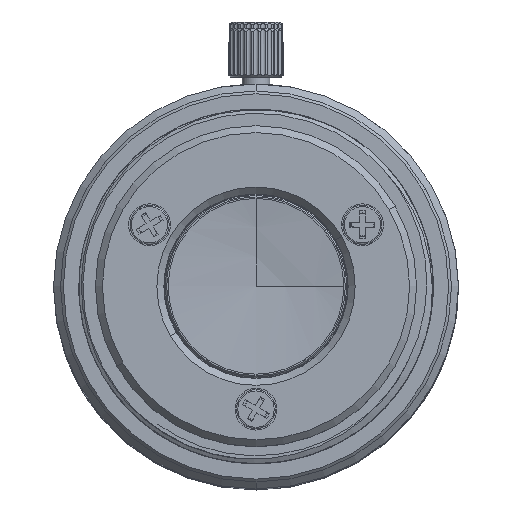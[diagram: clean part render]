
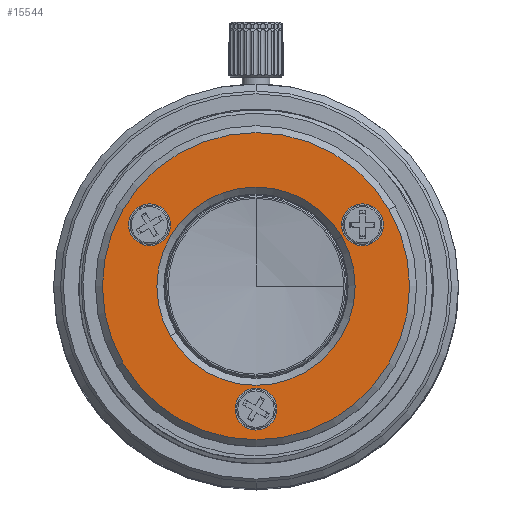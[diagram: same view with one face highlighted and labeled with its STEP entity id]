
A CAD part, top view. The second image highlights one B-rep face of the part: STEP entity #15544.
In plain terms, the highlighted planar face has unit normal (0, 0, 1).
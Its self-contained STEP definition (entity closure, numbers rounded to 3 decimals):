
#2009=CARTESIAN_POINT('',(0.,0.,28.783));
#2010=DIRECTION('',(0.,0.,1.));
#2011=DIRECTION('',(-0.866,-0.5,0.));
#2012=AXIS2_PLACEMENT_3D('',#2009,#2010,#2011);
#2023=CARTESIAN_POINT('',(0.,0.,28.783));
#2024=DIRECTION('',(0.,0.,1.));
#2025=DIRECTION('',(0.866,0.5,0.));
#2026=AXIS2_PLACEMENT_3D('',#2023,#2024,#2025);
#2033=CARTESIAN_POINT('',(0.,0.,28.783));
#2034=DIRECTION('',(0.,0.,-1.));
#2035=DIRECTION('',(0.866,0.5,0.));
#2036=AXIS2_PLACEMENT_3D('',#2033,#2034,#2035);
#2038=CARTESIAN_POINT('',(7.621,4.4,28.783));
#2039=DIRECTION('',(0.,0.,-1.));
#2040=DIRECTION('',(-0.5,0.866,0.));
#2041=AXIS2_PLACEMENT_3D('',#2038,#2039,#2040);
#2043=CARTESIAN_POINT('',(7.621,4.4,28.783));
#2044=DIRECTION('',(0.,0.,-1.));
#2045=DIRECTION('',(0.5,-0.866,0.));
#2046=AXIS2_PLACEMENT_3D('',#2043,#2044,#2045);
#2048=CARTESIAN_POINT('',(-7.621,4.4,28.783));
#2049=DIRECTION('',(0.,0.,-1.));
#2050=DIRECTION('',(-0.5,-0.866,0.));
#2051=AXIS2_PLACEMENT_3D('',#2048,#2049,#2050);
#2053=CARTESIAN_POINT('',(-7.621,4.4,28.783));
#2054=DIRECTION('',(0.,0.,-1.));
#2055=DIRECTION('',(0.5,0.866,0.));
#2056=AXIS2_PLACEMENT_3D('',#2053,#2054,#2055);
#2058=CARTESIAN_POINT('',(0.,-8.8,
28.783));
#2059=DIRECTION('',(0.,0.,-1.));
#2060=DIRECTION('',(1.,0.,0.));
#2061=AXIS2_PLACEMENT_3D('',#2058,#2059,#2060);
#2063=CARTESIAN_POINT('',(0.,-8.8,
28.783));
#2064=DIRECTION('',(0.,0.,-1.));
#2065=DIRECTION('',(-1.,0.,0.));
#2066=AXIS2_PLACEMENT_3D('',#2063,#2064,#2065);
#2068=CARTESIAN_POINT('',(0.,0.,28.783));
#2069=DIRECTION('',(0.,0.,-1.));
#2070=DIRECTION('',(-0.866,-0.5,0.));
#2071=AXIS2_PLACEMENT_3D('',#2068,#2069,#2070);
#13008=CARTESIAN_POINT('',(-6.149,-3.55,
28.783));
#13009=VERTEX_POINT('',#13008);
#13010=CARTESIAN_POINT('',(6.149,3.55,28.783));
#13011=VERTEX_POINT('',#13010);
#13012=CARTESIAN_POINT('',(6.871,5.699,28.783));
#13013=CARTESIAN_POINT('',(8.371,3.101,28.783));
#13014=VERTEX_POINT('',#13012);
#13015=VERTEX_POINT('',#13013);
#13016=CARTESIAN_POINT('',(-8.371,3.101,
28.783));
#13017=CARTESIAN_POINT('',(-6.871,5.699,
28.783));
#13018=VERTEX_POINT('',#13016);
#13019=VERTEX_POINT('',#13017);
#13020=CARTESIAN_POINT('',(1.5,-8.8,
28.783));
#13021=CARTESIAN_POINT('',(-1.5,-8.8,
28.783));
#13022=VERTEX_POINT('',#13020);
#13023=VERTEX_POINT('',#13021);
#13025=CARTESIAN_POINT('',(-9.526,-5.5,
28.783));
#13027=VERTEX_POINT('',#13025);
#13028=CARTESIAN_POINT('',(9.526,5.5,28.783));
#13030=VERTEX_POINT('',#13028);
#15511=CARTESIAN_POINT('',(0.,0.,
28.783));
#15512=DIRECTION('',(0.,0.,1.));
#15513=DIRECTION('',(-0.5,0.866,0.));
#15514=AXIS2_PLACEMENT_3D('',#15511,#15512,#15513);
#15515=PLANE('',#15514);
#15516=ORIENTED_EDGE('',*,*,#15503,.F.);
#15517=ORIENTED_EDGE('',*,*,#15490,.F.);
#15518=EDGE_LOOP('',(#15516,#15517));
#15519=FACE_OUTER_BOUND('',#15518,.F.);
#15521=ORIENTED_EDGE('',*,*,#15520,.F.);
#15523=ORIENTED_EDGE('',*,*,#15522,.F.);
#15524=EDGE_LOOP('',(#15521,#15523));
#15525=FACE_BOUND('',#15524,.F.);
#15527=ORIENTED_EDGE('',*,*,#15526,.F.);
#15529=ORIENTED_EDGE('',*,*,#15528,.F.);
#15530=EDGE_LOOP('',(#15527,#15529));
#15531=FACE_BOUND('',#15530,.F.);
#15533=ORIENTED_EDGE('',*,*,#15532,.F.);
#15535=ORIENTED_EDGE('',*,*,#15534,.F.);
#15536=EDGE_LOOP('',(#15533,#15535));
#15537=FACE_BOUND('',#15536,.F.);
#15539=ORIENTED_EDGE('',*,*,#15538,.F.);
#15541=ORIENTED_EDGE('',*,*,#15540,.F.);
#15542=EDGE_LOOP('',(#15539,#15541));
#15543=FACE_BOUND('',#15542,.F.);
#15544=ADVANCED_FACE('',(#15519,#15525,#15531,#15537,#15543),#15515,.T.);
#2013=CIRCLE('',#2012,11.);
#2027=CIRCLE('',#2026,11.);
#2037=CIRCLE('',#2036,7.1);
#2042=CIRCLE('',#2041,1.5);
#2047=CIRCLE('',#2046,1.5);
#2052=CIRCLE('',#2051,1.5);
#2057=CIRCLE('',#2056,1.5);
#2062=CIRCLE('',#2061,1.5);
#2067=CIRCLE('',#2066,1.5);
#2072=CIRCLE('',#2071,7.1);
#15490=EDGE_CURVE('',#13027,#13030,#2013,.T.);
#15503=EDGE_CURVE('',#13030,#13027,#2027,.T.);
#15520=EDGE_CURVE('',#13009,#13011,#2072,.T.);
#15522=EDGE_CURVE('',#13011,#13009,#2037,.T.);
#15526=EDGE_CURVE('',#13014,#13015,#2042,.T.);
#15528=EDGE_CURVE('',#13015,#13014,#2047,.T.);
#15532=EDGE_CURVE('',#13018,#13019,#2052,.T.);
#15534=EDGE_CURVE('',#13019,#13018,#2057,.T.);
#15538=EDGE_CURVE('',#13022,#13023,#2062,.T.);
#15540=EDGE_CURVE('',#13023,#13022,#2067,.T.);
